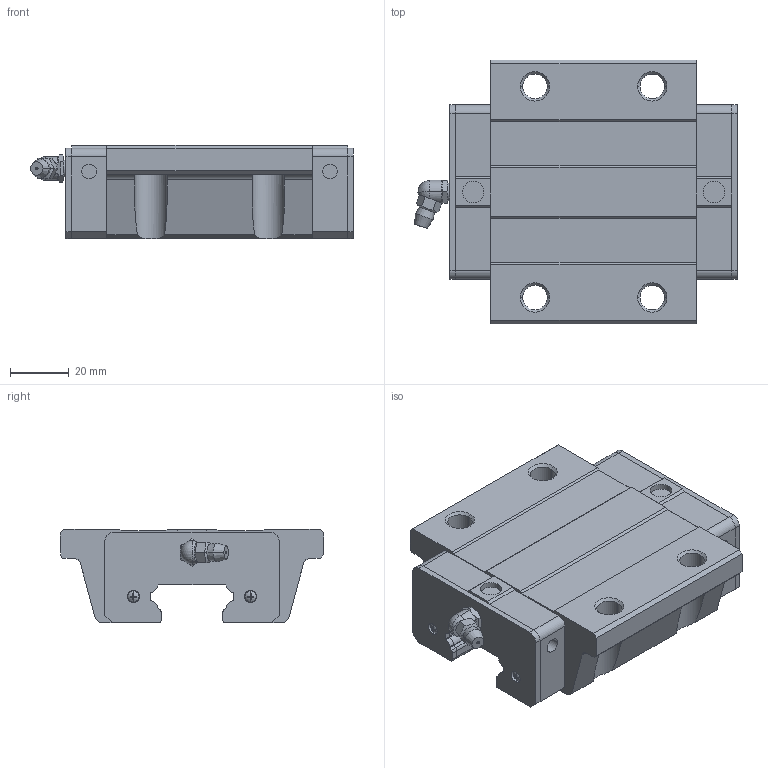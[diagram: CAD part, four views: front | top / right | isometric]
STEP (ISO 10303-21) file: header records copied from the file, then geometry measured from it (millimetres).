
FILE_DESCRIPTION(('starvars output'),'2;1');
FILE_NAME('cv20190610050351000011310.stp','05:03:52 2019/06/10',( 'Thomas Industrial Network Germany GmbH'),( 'Thomas Industrial Network Germany GmbH'),'unknown preprocess','ACIS' ,'unknown authorization');
FILE_SCHEMA(('CONFIG_CONTROL_DESIGN {UNKNOWN IMPLEMENTATION LEVEL}'));
Length unit declared in the file: millimetre
Products named in the file (10): PRODUCT_ID_1; PRODUCT_ID_2; PRODUCT_ID_3; PRODUCT_ID_4; PRODUCT_ID_5; PRODUCT_ID_6; PRODUCT_ID_7; PRODUCT_ID_8; PRODUCT_ID_9; PRODUCT_ID_10
Bounding box: 110.1 x 90 x 32 mm (x, y, z)
Volume: 185895.5 mm3; surface area: 43307.3 mm2
Topology: 10 solids, 10 shells, 439 faces, 1166 edges, 752 vertices
Faces by surface type: plane 231, cylinder 140, cone 56, sphere 12
Entity records: 13254 total; most frequent: ORIENTED_EDGE 2324, CARTESIAN_POINT 2198, DIRECTION 1949, EDGE_CURVE 1162, VERTEX_POINT 752, AXIS2_PLACEMENT_3D 661, VECTOR 627, LINE 627
